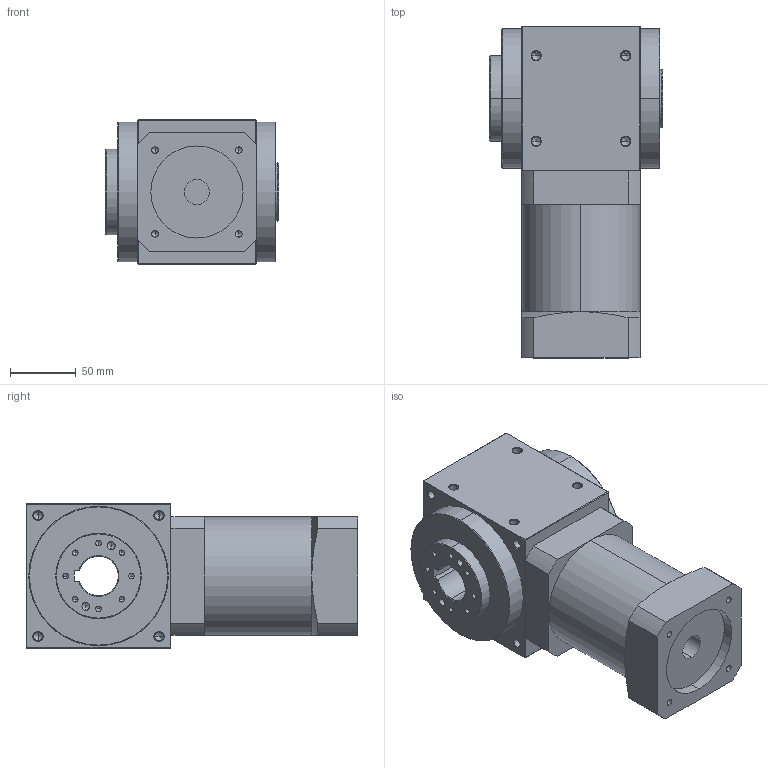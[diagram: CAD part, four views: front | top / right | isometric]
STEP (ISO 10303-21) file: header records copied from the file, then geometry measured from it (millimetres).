
FILE_DESCRIPTION (( 'STEP AP214' ), '1' );
FILE_NAME ('AAW110AS-020-RFK-L1(3-10) 19-70-90-M6.STEP', '2020-11-24T09:31:40', ( '微软用户' ), ( '微软中国' ), 'SwSTEP 2.0', 'SolidWorks 2014', '' );
FILE_SCHEMA (( 'AUTOMOTIVE_DESIGN' ));
Length unit declared in the file: millimetre
Products named in the file (2): AAW110AS-020-RFK-L1(3-10) 19-70-90-M6
Bounding box: 131.5 x 252 x 110 mm (x, y, z)
Volume: 2221528.7 mm3; surface area: 164691.9 mm2
Topology: 2 solids, 2 shells, 270 faces, 659 edges, 358 vertices
Faces by surface type: cone 125, cylinder 95, plane 50
Entity records: 9908 total; most frequent: DIRECTION 1375, CARTESIAN_POINT 1369, ORIENTED_EDGE 1182, EDGE_CURVE 591, AXIS2_PLACEMENT_3D 540, VERTEX_POINT 358, EDGE_LOOP 313, VECTOR 295
